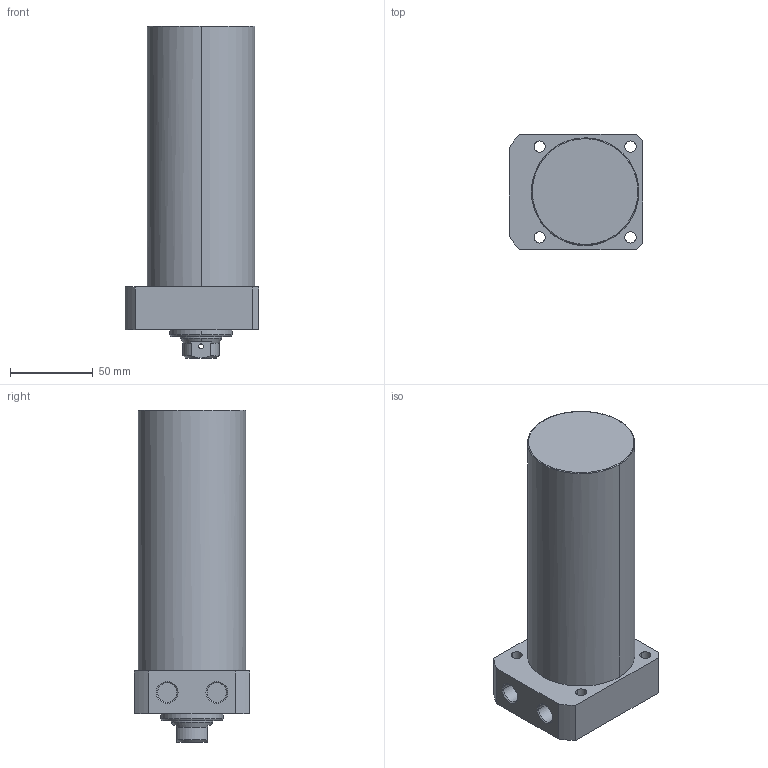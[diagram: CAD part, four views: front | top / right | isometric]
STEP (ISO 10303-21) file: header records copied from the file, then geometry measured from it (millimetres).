
FILE_DESCRIPTION((' '),'2;1');
FILE_NAME( 'TLLR-065CB-125.STEP.stp', '2025-10-24T16:34:57', (' '), ('--- Datakit www.datakit.com---'), ' Datakit CrossCadWare V2024.1 Dec 21 2023', 'Mastercam 2025', ' ');
FILE_SCHEMA(('AUTOMOTIVE_DESIGN { 1 0 10303 214 1 1 1 1 }'));
Length unit declared in the file: millimetre
Products named in the file (1): TLLR-065CB-125
Bounding box: 81 x 70 x 201 mm (x, y, z)
Volume: 668179.1 mm3; surface area: 56734.5 mm2
Topology: 1 solids, 1 shells, 67 faces, 197 edges, 136 vertices
Faces by surface type: cylinder 32, plane 19, cone 14, torus 2
Entity records: 3278 total; most frequent: CARTESIAN_POINT 1359, DIRECTION 426, ORIENTED_EDGE 390, EDGE_CURVE 195, AXIS2_PLACEMENT_3D 179, VERTEX_POINT 136, CIRCLE 111, EDGE_LOOP 85
